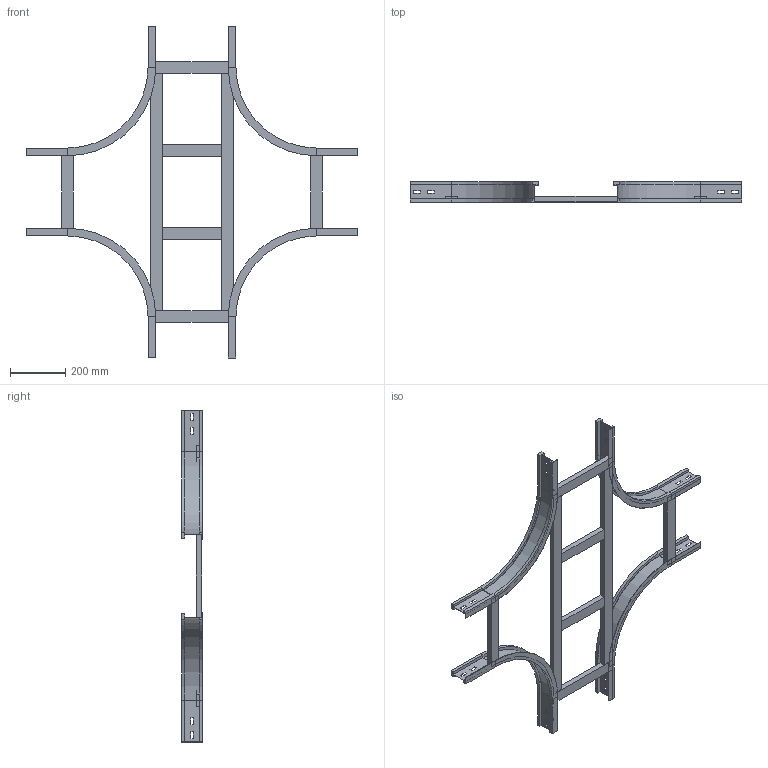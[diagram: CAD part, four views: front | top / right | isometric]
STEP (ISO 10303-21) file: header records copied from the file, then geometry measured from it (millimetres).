
FILE_DESCRIPTION (( 'STEP AP214' ), '1' );
FILE_NAME ('17S3C300.step', '2025-02-21T16:18:25', ( '' ), ( '' ), 'SwSTEP 2.0', 'SolidWorks 2023', '' );
FILE_SCHEMA (( 'AUTOMOTIVE_DESIGN' ));
Length unit declared in the file: millimetre
Products named in the file (5): TRAVERSINO_300; TRAVERSINO_INTERMEDIO_X_R300+300; TRAVERSINO_LONG._R300+300; LONGH.INTERNO 90°_H75_R300; 17S3C300
Assembly tree (12 placements, depth 2):
  17S3C300
    LONGH.INTERNO 90°_H75_R300  x4
    TRAVERSINO_300  x4
    TRAVERSINO_INTERMEDIO_X_R300+300  x2
    TRAVERSINO_LONG._R300+300  x2
Bounding box: 1200 x 75 x 1200 mm (x, y, z)
Volume: 4221701.7 mm3; surface area: 1180016.8 mm2
Topology: 12 solids, 12 shells, 264 faces, 624 edges, 384 vertices
Faces by surface type: plane 240, cylinder 24
Entity records: 2226 total; most frequent: CARTESIAN_POINT 359, DIRECTION 354, ORIENTED_EDGE 336, EDGE_CURVE 168, LINE 156, VECTOR 156, VERTEX_POINT 104, AXIS2_PLACEMENT_3D 99
